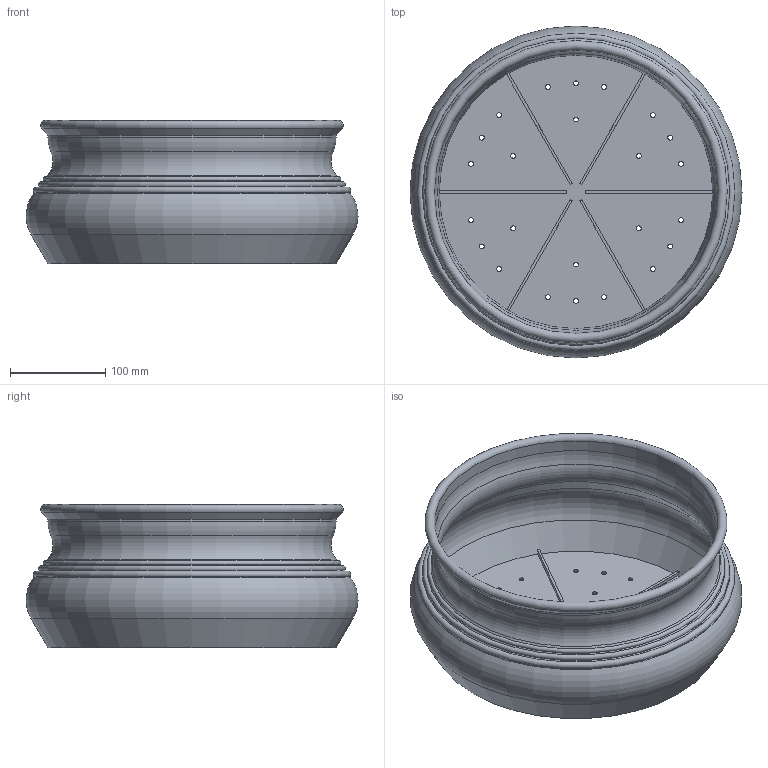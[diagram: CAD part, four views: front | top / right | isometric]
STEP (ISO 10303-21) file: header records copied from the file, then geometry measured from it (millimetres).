
FILE_DESCRIPTION(/* description */ (''),/* implementation_level */ '2;1');
FILE_NAME(/* name */ 'LR2406-S25-H150-D350_step.step',/* time_stamp */ '2024-02-01T10:59:34+01:00',/* author */ (''),/* organization */ (''),/* preprocessor_version */ 'ST-DEVELOPER v20',/* originating_system */ 'Autodesk Translation Framework v12.20.1.177',/* authorisation */ '');
FILE_SCHEMA (('AUTOMOTIVE_DESIGN { 1 0 10303 214 3 1 1 }'));
Length unit declared in the file: millimetre
Products named in the file (1): LR2406-S25-H150-D350
Bounding box: 347.99 x 347.99 x 150 mm (x, y, z)
Volume: 652993.9 mm3; surface area: 488874.1 mm2
Topology: 1 solids, 1 shells, 70 faces, 185 edges, 117 vertices
Faces by surface type: cylinder 32, plane 20, torus 10, cone 8
Full cylindrical faces by diameter (mm): 5 x24, 297 x1, 302 x1
Entity records: 2336 total; most frequent: DIRECTION 430, CARTESIAN_POINT 373, ORIENTED_EDGE 370, EDGE_CURVE 185, AXIS2_PLACEMENT_3D 174, EDGE_LOOP 118, VERTEX_POINT 117, CIRCLE 103
